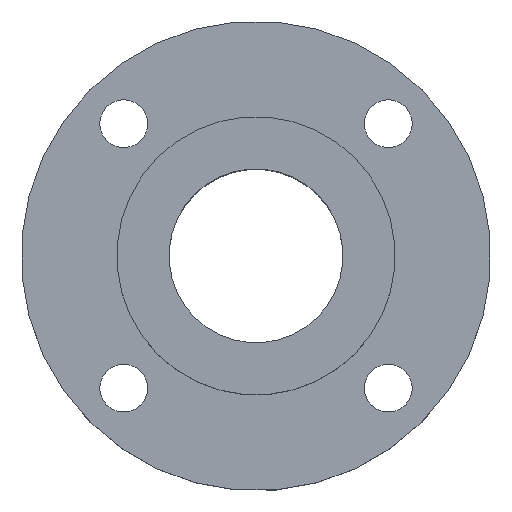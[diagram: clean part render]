
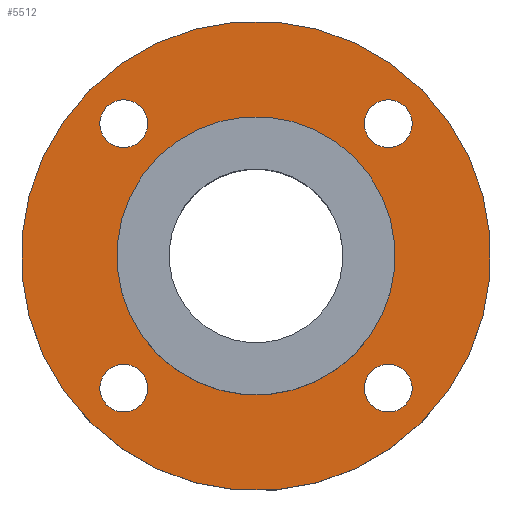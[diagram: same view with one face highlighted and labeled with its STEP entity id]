
A CAD part, top view. The second image highlights one B-rep face of the part: STEP entity #5512.
In plain terms, the highlighted planar face has unit normal (0, 0, 1).
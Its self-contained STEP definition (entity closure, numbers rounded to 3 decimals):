
#112=CIRCLE('',#5863,16.);
#116=CIRCLE('',#5871,27.);
#117=CIRCLE('',#5873,2.75);
#118=CIRCLE('',#5874,2.75);
#119=CIRCLE('',#5875,2.75);
#120=CIRCLE('',#5876,2.75);
#510=ORIENTED_EDGE('',*,*,#2088,.F.);
#511=ORIENTED_EDGE('',*,*,#2089,.F.);
#512=ORIENTED_EDGE('',*,*,#2090,.F.);
#513=ORIENTED_EDGE('',*,*,#2091,.F.);
#514=ORIENTED_EDGE('',*,*,#2083,.T.);
#515=ORIENTED_EDGE('',*,*,#2087,.T.);
#2083=EDGE_CURVE('',#2875,#2875,#112,.F.);
#2087=EDGE_CURVE('',#2879,#2879,#116,.T.);
#2088=EDGE_CURVE('',#2880,#2880,#117,.T.);
#2089=EDGE_CURVE('',#2881,#2881,#118,.T.);
#2090=EDGE_CURVE('',#2882,#2882,#119,.T.);
#2091=EDGE_CURVE('',#2883,#2883,#120,.T.);
#2875=VERTEX_POINT('',#8758);
#2879=VERTEX_POINT('',#8770);
#2880=VERTEX_POINT('',#8773);
#2881=VERTEX_POINT('',#8775);
#2882=VERTEX_POINT('',#8777);
#2883=VERTEX_POINT('',#8779);
#4507=EDGE_LOOP('',(#510));
#4508=EDGE_LOOP('',(#511));
#4509=EDGE_LOOP('',(#512));
#4510=EDGE_LOOP('',(#513));
#4511=EDGE_LOOP('',(#514));
#4512=EDGE_LOOP('',(#515));
#4911=FACE_BOUND('',#4507,.T.);
#4912=FACE_BOUND('',#4508,.T.);
#4913=FACE_BOUND('',#4509,.T.);
#4914=FACE_BOUND('',#4510,.T.);
#4915=FACE_BOUND('',#4511,.T.);
#4916=FACE_BOUND('',#4512,.T.);
#5258=PLANE('',#5872);
#5512=ADVANCED_FACE('',(#4911,#4912,#4913,#4914,#4915,#4916),#5258,.T.);
#5863=AXIS2_PLACEMENT_3D('',#8757,#6369,#6370);
#5871=AXIS2_PLACEMENT_3D('',#8769,#6385,#6386);
#5872=AXIS2_PLACEMENT_3D('',#8771,#6387,#6388);
#5873=AXIS2_PLACEMENT_3D('',#8772,#6389,#6390);
#5874=AXIS2_PLACEMENT_3D('',#8774,#6391,#6392);
#5875=AXIS2_PLACEMENT_3D('',#8776,#6393,#6394);
#5876=AXIS2_PLACEMENT_3D('',#8778,#6395,#6396);
#6369=DIRECTION('',(0.,0.,1.));
#6370=DIRECTION('',(0.707,-0.707,0.));
#6385=DIRECTION('',(0.,0.,1.));
#6386=DIRECTION('',(0.707,-0.707,0.));
#6387=DIRECTION('',(0.,0.,1.));
#6388=DIRECTION('',(0.707,-0.707,0.));
#6389=DIRECTION('',(0.,0.,1.));
#6390=DIRECTION('',(0.707,-0.707,0.));
#6391=DIRECTION('',(0.,0.,1.));
#6392=DIRECTION('',(0.707,-0.707,0.));
#6393=DIRECTION('',(0.,0.,1.));
#6394=DIRECTION('',(0.707,-0.707,0.));
#6395=DIRECTION('',(0.,0.,1.));
#6396=DIRECTION('',(0.707,-0.707,0.));
#8757=CARTESIAN_POINT('',(0.,0.,0.));
#8758=CARTESIAN_POINT('',(11.314,-11.314,0.));
#8769=CARTESIAN_POINT('',(0.,0.,0.));
#8770=CARTESIAN_POINT('',(19.092,-19.092,0.));
#8771=CARTESIAN_POINT('',(0.,0.,0.));
#8772=CARTESIAN_POINT('',(15.203,15.203,0.));
#8773=CARTESIAN_POINT('',(17.147,13.258,0.));
#8774=CARTESIAN_POINT('',(-15.203,15.203,0.));
#8775=CARTESIAN_POINT('',(-13.258,13.258,0.));
#8776=CARTESIAN_POINT('',(-15.203,-15.203,0.));
#8777=CARTESIAN_POINT('',(-13.258,-17.147,0.));
#8778=CARTESIAN_POINT('',(15.203,-15.203,0.));
#8779=CARTESIAN_POINT('',(17.147,-17.147,0.));
